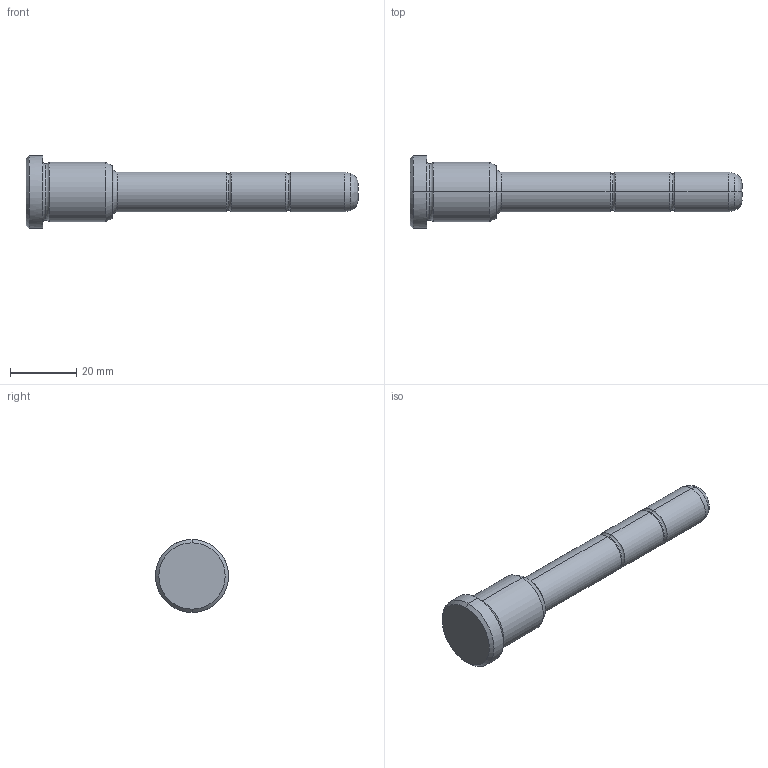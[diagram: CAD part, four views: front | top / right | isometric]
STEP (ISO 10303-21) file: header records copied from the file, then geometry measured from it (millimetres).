
FILE_DESCRIPTION(('CATIA V5 STEP Exchange'),'2;1');
FILE_NAME('C:\Users\Utente\Desktop\IO LAVORO\3D X SITO CF\X SITO\PLASTICA\351\351-12X26X100.stp','2021-08-17T12:13:04+00:00',('none'),('none'),'CATIA Version 5 Release 20 GA (IN-10)','CATIA V5 STEP AP203','none');
FILE_SCHEMA(('CONFIG_CONTROL_DESIGN'));
Length unit declared in the file: millimetre
Products named in the file (1): 351-12X26X100
Bounding box: 100 x 22 x 22 mm (x, y, z)
Volume: 15351.8 mm3; surface area: 4935.6 mm2
Topology: 1 solids, 1 shells, 36 faces, 102 edges, 70 vertices
Faces by surface type: torus 14, cylinder 10, cone 6, plane 4, bspline 2
Entity records: 1308 total; most frequent: CARTESIAN_POINT 375, ORIENTED_EDGE 204, DIRECTION 152, AXIS2_PLACEMENT_3D 103, EDGE_CURVE 102, VERTEX_POINT 70, CIRCLE 68, EDGE_LOOP 38
